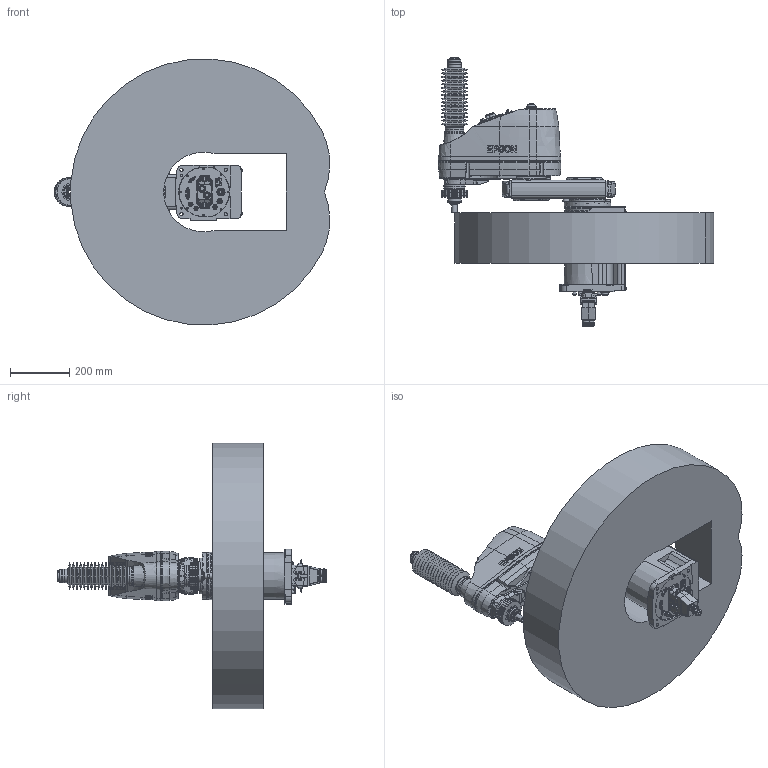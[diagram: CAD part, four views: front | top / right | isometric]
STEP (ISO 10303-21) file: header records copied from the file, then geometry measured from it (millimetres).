
FILE_DESCRIPTION( ( 'STEP AP214' ), '1' );
FILE_NAME( 'C:/Users/9607552/Desktop/GX8-B452CB_straight.stp', '2023-07-07T02:01:17', ( '' ), ( '' ), ' ', 'PARTsolutions', ' ' );
FILE_SCHEMA( ( 'AUTOMOTIVE_DESIGN { 1 0 10303 214 1 1 1 1 }' ) );
Length unit declared in the file: millimetre
Products named in the file (11): GX8-B452CB-SW; _B452CBbasegx8; _B452Sj1arm; _GX8-B452CBj1arm2; _GX8-B452CBj1arm1; _B452C_J2; _B452CZA; _1-B-long; _1-B-short; _Straight-B; _GX8-10-B_WS
Assembly tree (12 placements, depth 2):
  GX8-B452CB-SW
    _B452CBbasegx8
    _B452Sj1arm
    _GX8-B452CBj1arm2  x2
    _GX8-B452CBj1arm1  x2
    _B452C_J2
    _B452CZA
    _1-B-long
    _1-B-short
    _Straight-B
    _GX8-10-B_WS
Bounding box: 931.38 x 909.35 x 898.63 mm (x, y, z)
Volume: 112829817.4 mm3; surface area: 3168413.4 mm2
Topology: 12 solids, 17 shells, 3410 faces, 8273 edges, 5355 vertices
Faces by surface type: plane 1635, cylinder 1092, cone 480, torus 161, bspline 37, sphere 5
Full cylindrical faces by diameter (mm): 1 x48, 1.18 x55, 2.459 x12, 3 x32, 3.242 x20, 3.3 x4, 3.9 x4, 4.2 x6, 4.5 x12, 4.8 x5, 4.917 x2, 5.34 x4, 5.5 x17, 6 x5, 6.2 x2, 6.647 x4, 6.8 x2, 7 x48, 8 x5, 8.5 x6, 9 x24, 10 x18, 10.106 x1, 11 x4, 11.2 x7, 11.5 x1, 12 x5, 12.25 x1, 13 x3, 13.2 x12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
Entity records: 121811 total; most frequent: CARTESIAN_POINT 23408, DIRECTION 15003, ORIENTED_EDGE 13680, EDGE_CURVE 6840, AXIS2_PLACEMENT_3D 5906, VERTEX_POINT 4937, EDGE_LOOP 4579, FACE_OUTER_BOUND 3817
